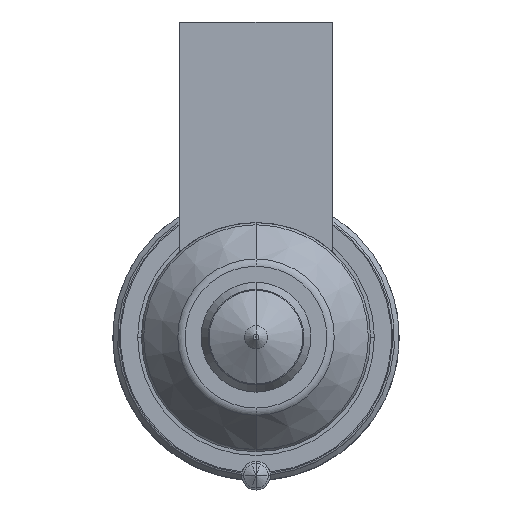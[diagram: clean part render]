
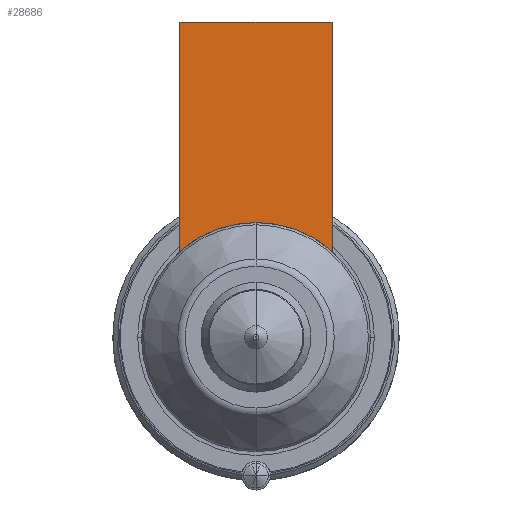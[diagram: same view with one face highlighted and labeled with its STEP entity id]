
A CAD part, front view. The second image highlights one B-rep face of the part: STEP entity #28686.
In plain terms, the highlighted planar face has unit normal (0, -1, 0).
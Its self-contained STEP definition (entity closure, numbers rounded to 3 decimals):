
#27865=DIRECTION('',(0.,0.,-1.));
#27866=VECTOR('',#27865,24.056);
#27867=CARTESIAN_POINT('',(-8.,-56.,33.));
#27868=LINE('',#27867,#27866);
#27880=CARTESIAN_POINT('',(0.,-56.,0.));
#27881=DIRECTION('',(0.,-1.,0.));
#27882=DIRECTION('',(0.,0.,1.));
#27883=AXIS2_PLACEMENT_3D('',#27880,#27881,#27882);
#27888=DIRECTION('',(1.,0.,0.));
#27889=VECTOR('',#27888,16.);
#27890=CARTESIAN_POINT('',(-8.,-56.,33.));
#27891=LINE('',#27890,#27889);
#27895=CARTESIAN_POINT('',(0.,-56.,0.));
#27896=DIRECTION('',(0.,-1.,0.));
#27897=DIRECTION('',(0.667,0.,0.745));
#27898=AXIS2_PLACEMENT_3D('',#27895,#27896,#27897);
#28048=DIRECTION('',(0.,0.,-1.));
#28049=VECTOR('',#28048,24.056);
#28050=CARTESIAN_POINT('',(8.,-56.,33.));
#28051=LINE('',#28050,#28049);
#28601=CARTESIAN_POINT('',(-8.,-56.,33.));
#28602=VERTEX_POINT('',#28601);
#28607=CARTESIAN_POINT('',(8.,-56.,33.));
#28608=VERTEX_POINT('',#28607);
#28610=CARTESIAN_POINT('',(-8.,-56.,8.944));
#28612=VERTEX_POINT('',#28610);
#28614=CARTESIAN_POINT('',(8.,-56.,8.944));
#28616=VERTEX_POINT('',#28614);
#28619=CARTESIAN_POINT('',(0.,-56.,12.));
#28620=VERTEX_POINT('',#28619);
#28671=CARTESIAN_POINT('',(-8.,-56.,33.));
#28672=DIRECTION('',(0.,-1.,0.));
#28673=DIRECTION('',(0.,0.,-1.));
#28674=AXIS2_PLACEMENT_3D('',#28671,#28672,#28673);
#28675=PLANE('',#28674);
#28676=ORIENTED_EDGE('',*,*,#28650,.T.);
#28677=ORIENTED_EDGE('',*,*,#28639,.F.);
#28679=ORIENTED_EDGE('',*,*,#28678,.T.);
#28681=ORIENTED_EDGE('',*,*,#28680,.T.);
#28683=ORIENTED_EDGE('',*,*,#28682,.T.);
#28684=EDGE_LOOP('',(#28676,#28677,#28679,#28681,#28683));
#28685=FACE_OUTER_BOUND('',#28684,.F.);
#28686=ADVANCED_FACE('',(#28685),#28675,.T.);
#27884=CIRCLE('',#27883,12.);
#27899=CIRCLE('',#27898,12.);
#28639=EDGE_CURVE('',#28602,#28612,#27868,.T.);
#28650=EDGE_CURVE('',#28620,#28612,#27884,.T.);
#28678=EDGE_CURVE('',#28602,#28608,#27891,.T.);
#28680=EDGE_CURVE('',#28608,#28616,#28051,.T.);
#28682=EDGE_CURVE('',#28616,#28620,#27899,.T.);
